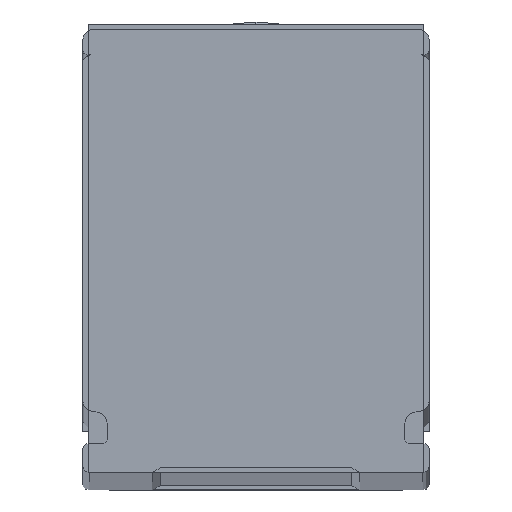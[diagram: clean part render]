
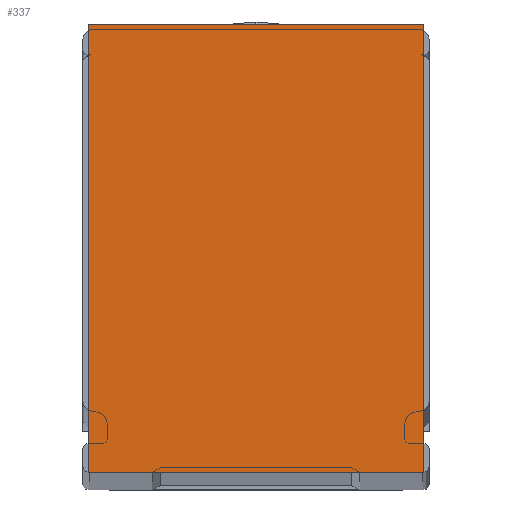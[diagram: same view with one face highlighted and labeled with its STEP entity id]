
A CAD part, top view. The second image highlights one B-rep face of the part: STEP entity #337.
In plain terms, the highlighted planar face has unit normal (0, 0, 1).
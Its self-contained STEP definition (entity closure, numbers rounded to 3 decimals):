
#274 = VERTEX_POINT ( 'NONE', #1872 ) ;
#289 = EDGE_CURVE ( 'NONE', #290, #291, #1920, .T. ) ;
#290 = VERTEX_POINT ( 'NONE', #1911 ) ;
#291 = VERTEX_POINT ( 'NONE', #1910 ) ;
#337 = ADVANCED_FACE ( 'NONE', ( #1923 ), #1922, .T. ) ;
#338 = EDGE_LOOP ( 'NONE', ( #339, #340, #392, #393 ) ) ;
#339 = ORIENTED_EDGE ( 'NONE', *, *, #289, .T. ) ;
#340 = ORIENTED_EDGE ( 'NONE', *, *, #352, .T. ) ;
#341 = EDGE_CURVE ( 'NONE', #342, #274, #1983, .T. ) ;
#342 = VERTEX_POINT ( 'NONE', #1979 ) ;
#352 = EDGE_CURVE ( 'NONE', #291, #342, #1963, .T. ) ;
#356 = EDGE_CURVE ( 'NONE', #274, #290, #2016, .T. ) ;
#392 = ORIENTED_EDGE ( 'NONE', *, *, #341, .T. ) ;
#393 = ORIENTED_EDGE ( 'NONE', *, *, #356, .T. ) ;
#1872 = CARTESIAN_POINT ( 'NONE',  ( 7.5, 20., 0. ) ) ;
#1910 = CARTESIAN_POINT ( 'NONE',  ( -7.5, 0., 0. ) ) ;
#1911 = CARTESIAN_POINT ( 'NONE',  ( -7.5, 20., 0. ) ) ;
#1912 = DIRECTION ( 'NONE',  ( 0., -1., 0. ) ) ;
#1913 = VECTOR ( 'NONE', #1912, 1000. ) ;
#1914 = CARTESIAN_POINT ( 'NONE',  ( -7.5, 20., 0. ) ) ;
#1920 = LINE ( 'NONE', #1914, #1913 ) ;
#1921 = AXIS2_PLACEMENT_3D ( 'NONE', #1986, #1985, #1984 ) ;
#1922 = PLANE ( 'NONE',  #1921 ) ;
#1923 = FACE_OUTER_BOUND ( 'NONE', #338, .T. ) ;
#1960 = DIRECTION ( 'NONE',  ( 1., 0., 0. ) ) ;
#1961 = VECTOR ( 'NONE', #1960, 1000. ) ;
#1962 = CARTESIAN_POINT ( 'NONE',  ( -7.5, 0., 0. ) ) ;
#1963 = LINE ( 'NONE', #1962, #1961 ) ;
#1979 = CARTESIAN_POINT ( 'NONE',  ( 7.5, 0., 0. ) ) ;
#1980 = DIRECTION ( 'NONE',  ( 0., 1., 0. ) ) ;
#1981 = VECTOR ( 'NONE', #1980, 1000. ) ;
#1982 = CARTESIAN_POINT ( 'NONE',  ( 7.5, 20., 0. ) ) ;
#1983 = LINE ( 'NONE', #1982, #1981 ) ;
#1984 = DIRECTION ( 'NONE',  ( 1., 0., 0. ) ) ;
#1985 = DIRECTION ( 'NONE',  ( 0., 0., 1. ) ) ;
#1986 = CARTESIAN_POINT ( 'NONE',  ( -7.5, 0., 0. ) ) ;
#2013 = DIRECTION ( 'NONE',  ( -1., 0., 0. ) ) ;
#2014 = VECTOR ( 'NONE', #2013, 1000. ) ;
#2015 = CARTESIAN_POINT ( 'NONE',  ( -7.5, 20., 0. ) ) ;
#2016 = LINE ( 'NONE', #2015, #2014 ) ;
